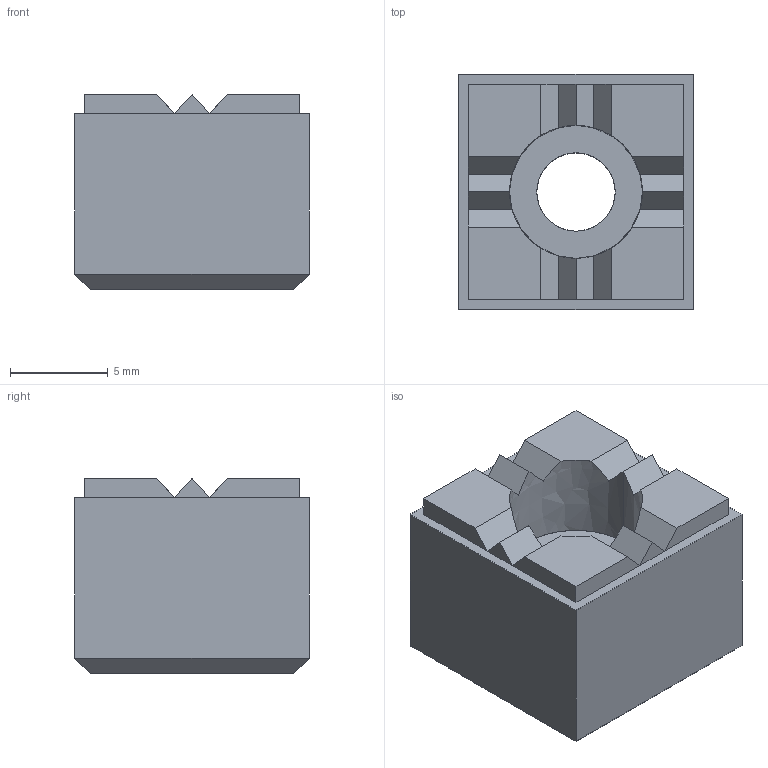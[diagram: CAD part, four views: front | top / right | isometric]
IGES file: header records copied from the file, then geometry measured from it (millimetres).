
Start section: SolidWorks IGES FILE using analytic representation for surfaces
Global section: file name: C:\WIX2\Positioning\3549\3549W001.igs; native system: SolidWorks 2003 by SolidWorks Corporation; preprocessor: Version 5.3; author: Joan; date: 030722.143929; units: millimetre
Bounding box: 12 x 12 x 10 mm (x, y, z)
Surface area: 881.1 mm2 (no closed solid volume)
Topology: 0 solids, 0 shells, 47 faces, 338 edges, 338 vertices
Faces by surface type: bspline 43, revolution 4
